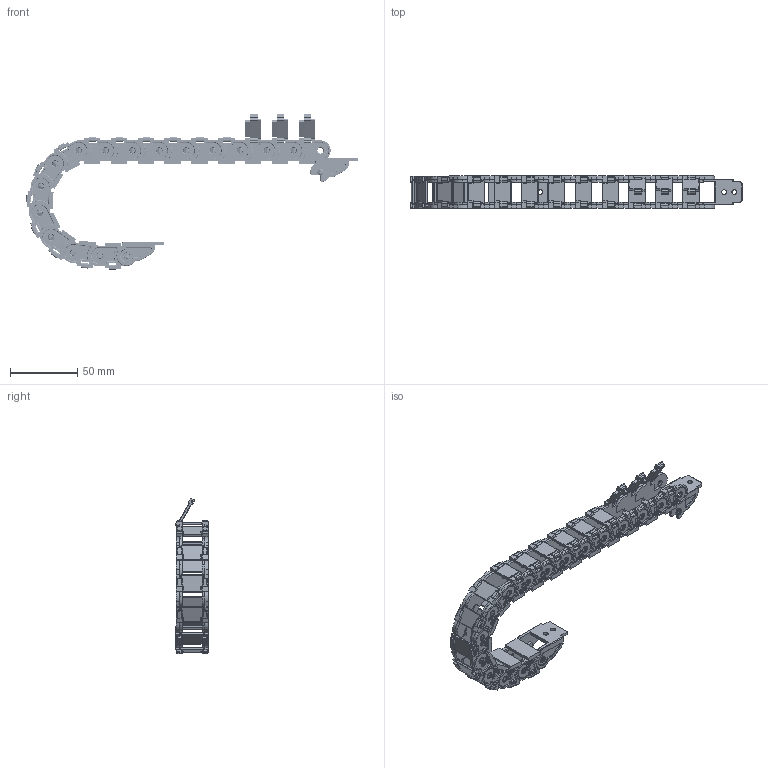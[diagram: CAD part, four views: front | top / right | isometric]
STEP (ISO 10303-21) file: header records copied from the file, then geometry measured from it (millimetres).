
FILE_DESCRIPTION(/* description */ (''),/* implementation_level */ '2;1');
FILE_NAME(/* name */ 'SA4 BA01',/* time_stamp */ '2016-07-25T17:28:57+03:00',/* author */ (''),/* organization */ (''),/* preprocessor_version */ 'ST-DEVELOPER v9',/* originating_system */ 'EDS PLM SOLUTIONS - UNIGRAPHICS NX 2.0',/* authorisation */ '');
FILE_SCHEMA (('CONFIG_CONTROL_DESIGN'));
Products named in the file (1): userCAAFvbkx
Bounding box: 247.22 x 24.42 x 115.86 mm (x, y, z)
Volume: 59403.4 mm3; surface area: 67850.7 mm2
Topology: 34 solids, 34 shells, 5644 faces, 15039 edges, 9575 vertices
Faces by surface type: plane 3200, cylinder 1438, extrusion 384, sphere 336, torus 170, cone 72, bspline 44
Full cylindrical faces by diameter (mm): 0.355 x64, 1.46 x32, 3.521 x4, 4.45 x32, 4.477 x2
Entity records: 187346 total; most frequent: CARTESIAN_POINT 48591, ORIENTED_EDGE 28780, DIRECTION 28084, EDGE_CURVE 14390, VECTOR 10246, LINE 9862, VERTEX_POINT 9408, AXIS2_PLACEMENT_3D 8919
